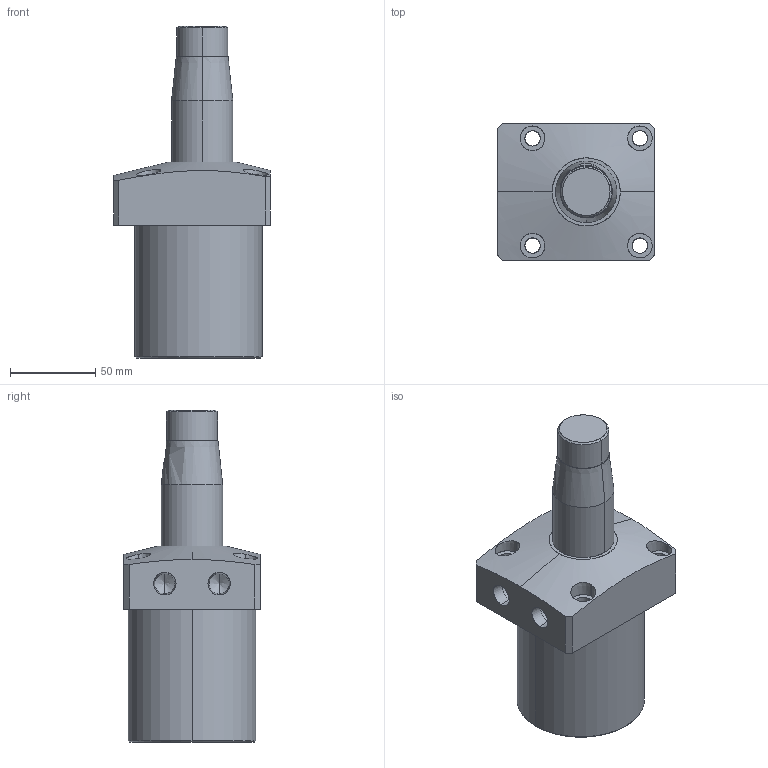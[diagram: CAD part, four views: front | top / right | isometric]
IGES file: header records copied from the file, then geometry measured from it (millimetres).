
Start section: SolidWorks IGES file using analytic representation for surfaces
Global section: file name: E:\ALL SSVT IGS MODEL\ALL-SWING-IGS\SWING-75\SC02-751-752-RH-LH-TOP-PTYPE\SC02-752-LH-TOP-TAPER.IGS; native system: SolidWorks 2019; preprocessor: SolidWorks 2019; author: SSVT; date: 210823.120915; units: millimetre
Bounding box: 92 x 80 x 195 mm (x, y, z)
Surface area: 70313.6 mm2 (no closed solid volume)
Topology: 0 solids, 0 shells, 74 faces, 1732 edges, 1728 vertices
Faces by surface type: revolution 48, bspline 26
